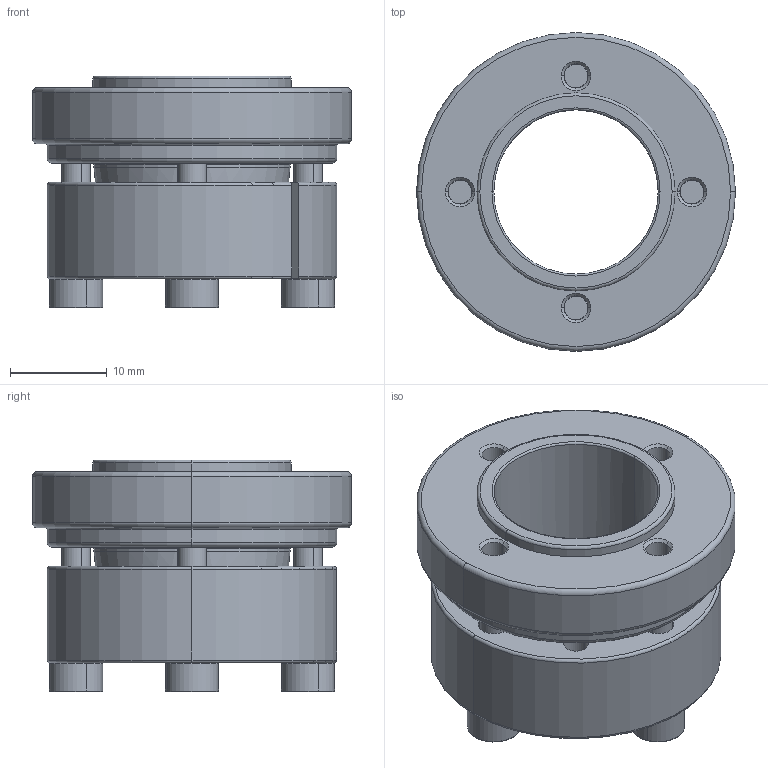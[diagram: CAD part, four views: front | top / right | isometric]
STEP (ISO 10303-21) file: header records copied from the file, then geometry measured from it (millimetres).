
FILE_DESCRIPTION (( 'STEP AP203' ), '1' );
FILE_NAME ('SAPC-17-30.STEP', '2013-07-25T00:07:44', ( 'MYCOM' ), ( '' ), 'SwSTEP 2.0', 'SolidWorks 2012', '' );
FILE_SCHEMA (( 'CONFIG_CONTROL_DESIGN' ));
Length unit declared in the file: millimetre
Products named in the file (1): SAPC-17-30
Bounding box: 33 x 33 x 24 mm (x, y, z)
Volume: 9622.3 mm3; surface area: 6529 mm2
Topology: 1 solids, 1 shells, 235 faces, 569 edges, 338 vertices
Faces by surface type: plane 84, torus 61, cylinder 57, cone 33
Entity records: 7063 total; most frequent: CARTESIAN_POINT 1357, DIRECTION 1288, ORIENTED_EDGE 1122, EDGE_CURVE 561, AXIS2_PLACEMENT_3D 537, VERTEX_POINT 338, CIRCLE 301, EDGE_LOOP 267
